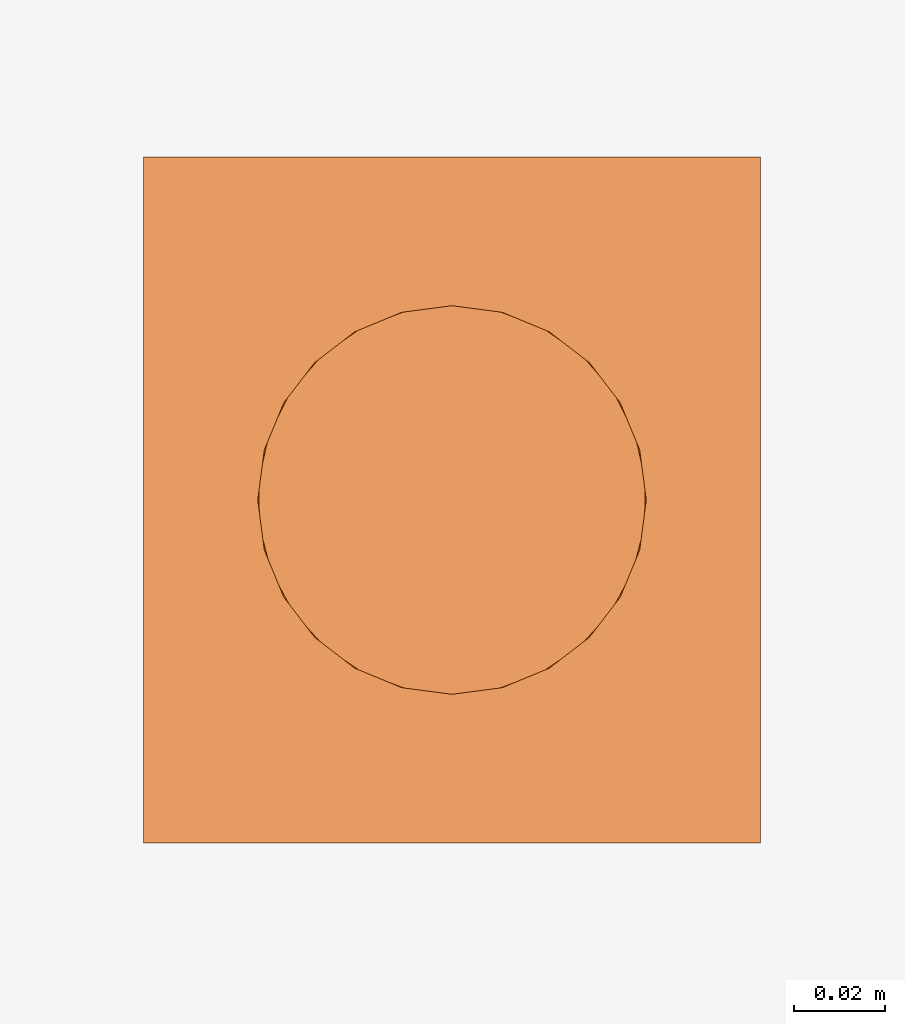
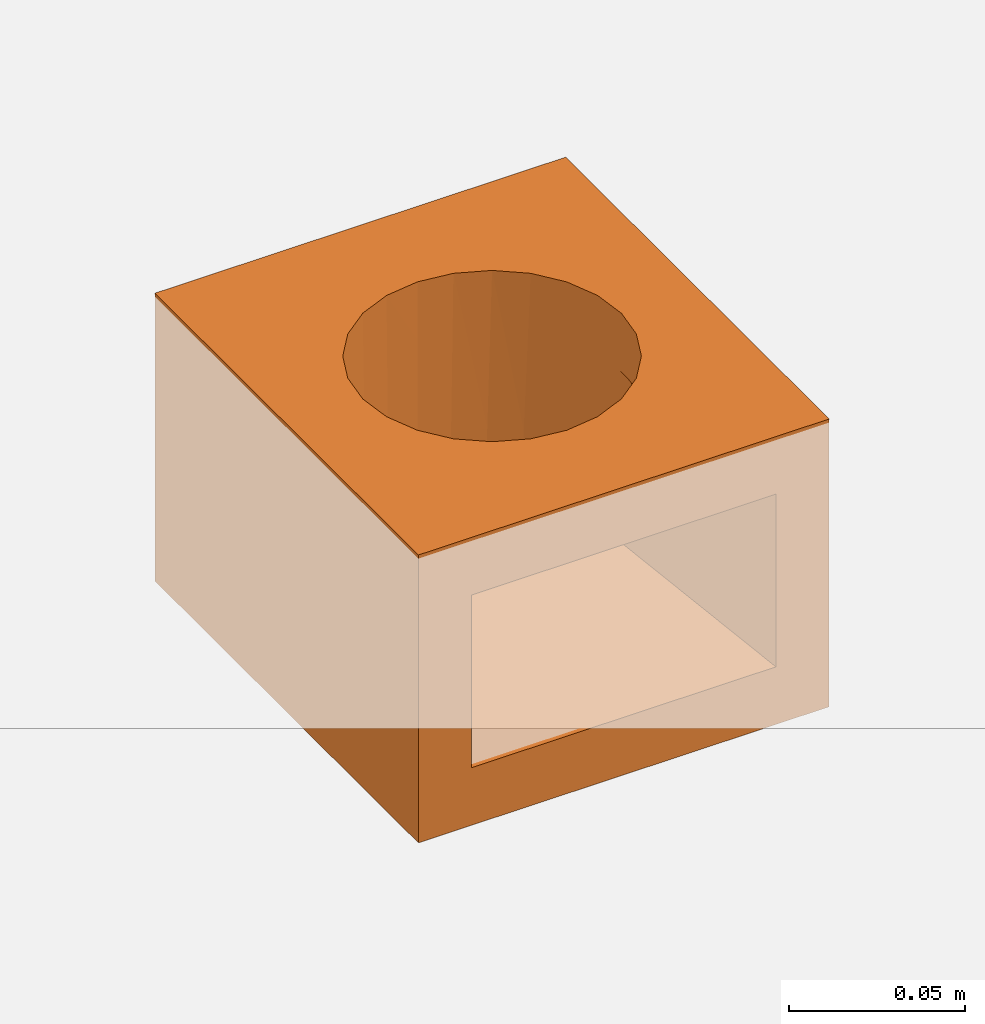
# One storey, part 2 of 2: 1 proxy.
"""IFC2X3 building model written with IfcOpenShell, lengths in millimetres."""

from ifc_helpers import new_model, entity, si_unit, converted_unit, direction, frame, origin, place, context, subcontext, project, spatial, faceted_brep, source, transform, mapped, material, element, save


model = new_model("IFC2X3")

# Units and contexts
model_context = context("Model", 3, precision=1e-06, world=origin(), true_north=direction((2.0, 6.12303176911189e-17, 1.0)))
context_of_model = context(None, 3, precision=1e-06, world=origin(), true_north=direction((2.0, 6.12303176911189e-17, 1.0)))
body_context = subcontext(model_context, "Body", "Model", "MODEL_VIEW")
ifc_project = project(units=[si_unit("LENGTHUNIT", "METRE", prefix="MILLI"), si_unit("AREAUNIT", "SQUARE_METRE", prefix="MILLI"), si_unit("VOLUMEUNIT", "CUBIC_METRE", prefix="MILLI"), converted_unit("PLANEANGLEUNIT", "DEGREE", entity("IfcRatioMeasure", 0.0174532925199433), si_unit("PLANEANGLEUNIT", "RADIAN"), dimensions=[0, 0, 0, 0, 0, 0, 0]), si_unit("TIMEUNIT", "SECOND")], contexts=[model_context, context_of_model])

# Site, building, storey
site_placement = place(None, origin())
site = spatial("IfcSite", under=ifc_project, at=site_placement, Name="Default", CompositionType="ELEMENT")
building_placement = place(site_placement, origin())
building = spatial("IfcBuilding", under=site, at=building_placement, CompositionType="ELEMENT")
storey_placement = place(building_placement, origin())
storey = spatial("IfcBuildingStorey", under=building, at=storey_placement, Name="Level 1", CompositionType="ELEMENT", Elevation=0.0)

# Proxy
ifc_material = material(Name="Grey Polymer Concrete")
shared_shape = source(origin(), body_context, "Body", "Brep", [
    faceted_brep([(-67.5000000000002, 0.0, 0.0), (-36.8060796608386, 53.7499999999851, 0.0), (-38.9289636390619, 58.8750952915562, 0.0), (-41.0518476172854, 64.0001905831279, 0.0), (-30.0520382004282, 44.9479617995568, 0.0), (-41.7759238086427, 69.5000952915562, 0.0), (-42.5000000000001, 75.0, 0.0), (0.0, 32.4999999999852, 0.0), (-10.999809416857, 33.9481523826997, 0.0), (67.5000000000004, 0.0, 0.0), (-21.2499999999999, 38.1939203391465, 0.0), (-41.0518476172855, 85.9998094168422, 0.0), (-67.5000000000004, 150.0, 0.0), (-36.8060796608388, 96.2499999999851, 0.0), (-30.0520382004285, 105.052038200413, 0.0), (-21.2500000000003, 111.806079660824, 0.0), (-10.9998094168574, 116.051847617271, 0.0), (0.0, 117.499999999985, 0.0), (21.2499999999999, 38.1939203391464, 0.0), (10.999809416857, 33.9481523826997, 0.0), (30.0520382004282, 44.9479617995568, 0.0), (41.0518476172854, 64.0001905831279, 0.0), (38.928963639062, 58.8750952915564, 0.0), (36.8060796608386, 53.749999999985, 0.0), (42.5000000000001, 75.0, 0.0), (41.7759238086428, 69.5000952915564, 0.0), (67.5000000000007, 150.0, 0.0), (10.9998094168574, 116.051847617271, 0.0), (21.2500000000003, 111.806079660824, 0.0), (36.8060796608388, 96.2499999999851, 0.0), (41.0518476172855, 85.9998094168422, 0.0), (30.0520382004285, 105.052038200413, 0.0), (-67.5000000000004, 150.0, -100.0), (67.5000000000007, 150.0, -100.0), (67.5000000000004, 0.0, -100.0), (-67.5000000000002, 0.0, -100.0), (-50.0, 0.0, -20.0), (50.0, 0.0, -20.0), (-50.0, 0.0, -80.0), (50.0, 0.0, -80.0), (-19.4942393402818, 37.234610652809, -20.0), (-10.0304773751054, 33.7006110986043, -20.0), (-39.4761084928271, 59.2555769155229, -20.0), (-34.6450606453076, 50.3835467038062, -20.0), (-27.8565895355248, 42.9023299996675, -20.0), (-42.0767820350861, 69.0171567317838, -20.0), (0.0, 32.4999999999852, -20.0), (-42.3001449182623, 79.1167632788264, -20.0), (-40.0311675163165, 89.274299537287, -55.0), (-20.0533951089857, 112.471473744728, -55.0), (-28.563960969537, 106.469828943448, -55.0), (-35.3590019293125, 98.5794610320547, -55.0), (0.0, 117.499999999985, -20.0), (-42.3001449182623, 79.1167632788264, -55.0), (-42.3001449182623, 79.116763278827, -80.0), (-10.3383909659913, 116.223387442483, -55.0), (0.0, 117.499999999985, -55.0), (20.0533951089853, 112.471473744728, -55.0), (39.4761084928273, 59.2555769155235, -20.0), (42.0767820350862, 69.0171567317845, -20.0), (35.3590019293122, 98.5794610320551, -55.0), (40.0311675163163, 89.2742995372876, -55.0), (42.3001449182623, 79.1167632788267, -20.0), (28.5639609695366, 106.469828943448, -55.0), (10.3383909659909, 116.223387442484, -55.0), (42.3001449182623, 79.1167632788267, -55.0), (42.3001449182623, 79.116763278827, -80.0), (19.4942393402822, 37.2346106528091, -20.0), (27.8565895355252, 42.9023299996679, -20.0), (34.6450606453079, 50.3835467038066, -20.0), (10.0304773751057, 33.7006110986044, -20.0), (-40.0294164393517, 89.2792093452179, -80.0), (-28.5594779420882, 106.473897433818, -80.0), (-35.3556704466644, 98.5844560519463, -80.0), (35.3556704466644, 98.5844560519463, -80.0), (40.0294164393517, 89.2792093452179, -80.0), (-10.3346115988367, 116.224335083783, -80.0), (-20.0488231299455, 112.473920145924, -80.0), (0.0, 117.499999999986, -80.0), (28.5594779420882, 106.473897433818, -80.0), (20.0488231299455, 112.473920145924, -80.0), (10.3346115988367, 116.224335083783, -80.0)], [[[0, 1, 2, 3]], [[1, 0, 4]], [[0, 3, 5, 6]], [[7, 8, 0, 9]], [[10, 4, 0]], [[8, 10, 0]], [[6, 11, 12, 0]], [[12, 11, 13]], [[13, 14, 12]], [[15, 16, 12]], [[14, 15, 12]], [[12, 16, 17]], [[18, 19, 9]], [[20, 18, 9]], [[9, 21, 22, 23]], [[9, 23, 20]], [[24, 25, 9, 26]], [[19, 7, 9]], [[27, 28, 26]], [[17, 27, 26, 12]], [[29, 30, 26]], [[31, 26, 28]], [[26, 31, 29]], [[30, 24, 26]], [[32, 33, 34, 35]], [[0, 36, 37, 9]], [[38, 36, 0, 35]], [[9, 37, 39, 34]], [[39, 38, 35, 34]], [[26, 9, 34, 33]], [[12, 26, 33, 32]], [[0, 12, 32, 35]], [[10, 8, 40]], [[41, 8, 7]], [[42, 3, 2, 1]], [[1, 4, 43]], [[4, 10, 44]], [[45, 6, 5, 3]], [[7, 46, 41]], [[40, 8, 41]], [[40, 44, 10]], [[44, 43, 4]], [[1, 43, 42]], [[42, 45, 3]], [[45, 47, 6]], [[11, 47, 48]], [[6, 47, 11]], [[11, 48, 13]], [[49, 16, 15]], [[15, 14, 50]], [[14, 13, 51]], [[17, 16, 52]], [[51, 13, 48]], [[14, 51, 50]], [[48, 47, 53, 54]], [[49, 55, 16]], [[15, 50, 49]], [[52, 55, 56]], [[16, 55, 52]], [[17, 52, 27]], [[27, 57, 28]], [[22, 21, 58, 23]], [[25, 24, 59, 21]], [[60, 29, 31]], [[29, 61, 30]], [[62, 24, 30]], [[63, 31, 28]], [[30, 61, 62]], [[64, 52, 56]], [[64, 27, 52]], [[60, 31, 63]], [[64, 57, 27]], [[57, 63, 28]], [[60, 61, 29]], [[65, 62, 61, 66]], [[67, 19, 18]], [[18, 20, 68]], [[20, 23, 69]], [[7, 19, 70]], [[58, 21, 59]], [[23, 58, 69]], [[69, 68, 20]], [[68, 67, 18]], [[19, 67, 70]], [[70, 46, 7]], [[24, 62, 59]], [[54, 38, 39]], [[66, 71, 54, 39]], [[72, 73, 71, 74]], [[71, 66, 75, 74]], [[76, 77, 72, 78]], [[79, 78, 72, 74]], [[79, 80, 81, 78]], [[36, 47, 45]], [[36, 42, 43]], [[42, 36, 45]], [[37, 59, 62]], [[37, 69, 58]], [[37, 58, 59]], [[36, 44, 40]], [[36, 41, 46, 37]], [[40, 41, 36]], [[36, 43, 44]], [[37, 67, 68]], [[37, 46, 70]], [[67, 37, 70]], [[69, 37, 68]], [[38, 54, 53, 36]], [[47, 36, 53]], [[71, 51, 48]], [[77, 55, 49]], [[72, 49, 50]], [[73, 50, 51]], [[71, 73, 51]], [[48, 54, 71]], [[55, 77, 76]], [[77, 49, 72]], [[50, 73, 72]], [[76, 78, 56]], [[56, 55, 76]], [[79, 63, 57]], [[80, 57, 64]], [[75, 61, 60]], [[74, 60, 63]], [[56, 81, 64]], [[81, 80, 64]], [[78, 81, 56]], [[74, 63, 79]], [[80, 79, 57]], [[60, 74, 75]], [[75, 66, 61]], [[65, 66, 39, 37]], [[37, 62, 65]], [[9, 25, 21]]]),
])
proxy_placement = place(storey_placement, frame((-2103.18060311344, 3055.13485353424, 0.0)))
element("IfcBuildingElementProxy", 1, at=proxy_placement, inside=storey, material=ifc_material, Name="Civil-Drainage-Channel-ACO-MultiDrain-M100D-Channel-System:23451 - CFD0100 Downpipe connector - 100mm high:23451 - CFD0100 Downpipe connector - 100mm high", ObjectType="23451 - CFD0100 Downpipe connector - 100mm high", CompositionType="ELEMENT", context=body_context, shape_type="MappedRepresentation", body=[
    mapped(shared_shape, transform((0.0, 0.0, 0.0), scale=1.0)),
])

save(model, "model.ifc")
